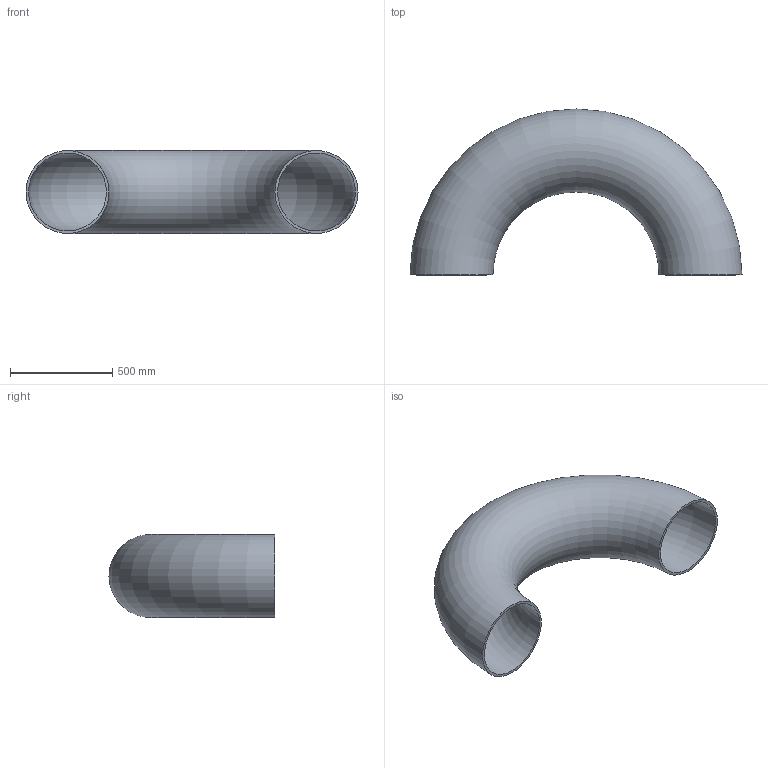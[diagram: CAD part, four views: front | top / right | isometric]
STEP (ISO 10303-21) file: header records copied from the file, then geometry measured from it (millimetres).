
FILE_DESCRIPTION(/* description */ (''),/* implementation_level */ '2;1');
FILE_NAME(/* name */ 'C:\Users\D\Documents\Inventor\HP\JIS\配管\エルボ ロング 180°\Sch40\Elbow180-long-400A-Sch40.stp',/* time_stamp */ '2022-06-14T14:52:53+09:00',/* author */ ('D'),/* organization */ (''),/* preprocessor_version */ 'ST-DEVELOPER v18',/* originating_system */ 'Autodesk Inventor 2020',/* authorisation */ '');
FILE_SCHEMA (('AUTOMOTIVE_DESIGN { 1 0 10303 214 3 1 1 }'));
Length unit declared in the file: millimetre
Products named in the file (1): Elbow-long-90-15A-SGP
Bounding box: 1625.6 x 812.8 x 406.4 mm (x, y, z)
Volume: 30082494 mm3; surface area: 4768816.5 mm2
Topology: 1 solids, 1 shells, 4 faces, 10 edges, 8 vertices
Faces by surface type: torus 2, plane 2
Entity records: 181 total; most frequent: DIRECTION 30, CARTESIAN_POINT 23, ORIENTED_EDGE 20, AXIS2_PLACEMENT_3D 15, CIRCLE 10, EDGE_CURVE 10, VERTEX_POINT 8, EDGE_LOOP 6
